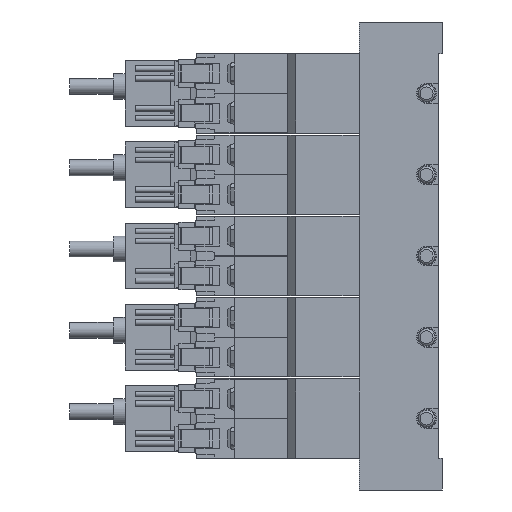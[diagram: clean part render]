
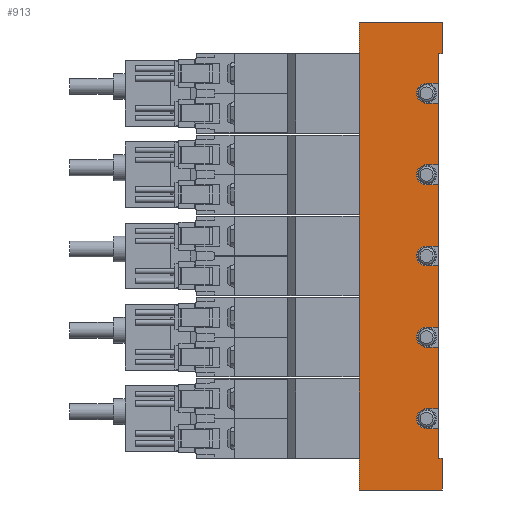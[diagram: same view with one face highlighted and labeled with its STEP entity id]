
A CAD part, left-side view. The second image highlights one B-rep face of the part: STEP entity #913.
In plain terms, the highlighted planar face has unit normal (-1, 0, 0) as drawn and (1, 0, 0) by its records, which use the part's own axes.
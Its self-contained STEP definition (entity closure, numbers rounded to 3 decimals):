
#913=ADVANCED_FACE('',(#1946),#1947,.F.);
#1946=FACE_OUTER_BOUND('',#3057,.T.);
#1947=PLANE('',#3058);
#3057=EDGE_LOOP('',(#6655,#6656,#6657,#6658,#6659,#6660,#6661,#6662,#6663,#6664,#6665,#6666,#6667,#6668,#6669,#6670,#6671,#6672,#6673,#6674,#6675,#6676,#6677,#6678,#6679,#6680,#6681,#6682));
#3058=AXIS2_PLACEMENT_3D('',#6683,#6684,#6685);
#6655=ORIENTED_EDGE('',*,*,#8037,.T.);
#6656=ORIENTED_EDGE('',*,*,#8038,.T.);
#6657=ORIENTED_EDGE('',*,*,#8039,.F.);
#6658=ORIENTED_EDGE('',*,*,#7892,.F.);
#6659=ORIENTED_EDGE('',*,*,#7906,.T.);
#6660=ORIENTED_EDGE('',*,*,#7966,.T.);
#6661=ORIENTED_EDGE('',*,*,#8022,.T.);
#6662=ORIENTED_EDGE('',*,*,#7952,.F.);
#6663=ORIENTED_EDGE('',*,*,#7882,.F.);
#6664=ORIENTED_EDGE('',*,*,#8006,.F.);
#6665=ORIENTED_EDGE('',*,*,#8020,.T.);
#6666=ORIENTED_EDGE('',*,*,#7947,.F.);
#6667=ORIENTED_EDGE('',*,*,#7930,.F.);
#6668=ORIENTED_EDGE('',*,*,#7977,.F.);
#6669=ORIENTED_EDGE('',*,*,#8019,.T.);
#6670=ORIENTED_EDGE('',*,*,#7989,.F.);
#6671=ORIENTED_EDGE('',*,*,#8028,.F.);
#6672=ORIENTED_EDGE('',*,*,#7936,.F.);
#6673=ORIENTED_EDGE('',*,*,#8018,.T.);
#6674=ORIENTED_EDGE('',*,*,#7971,.F.);
#6675=ORIENTED_EDGE('',*,*,#8004,.F.);
#6676=ORIENTED_EDGE('',*,*,#7923,.F.);
#6677=ORIENTED_EDGE('',*,*,#8017,.T.);
#6678=ORIENTED_EDGE('',*,*,#7984,.F.);
#6679=ORIENTED_EDGE('',*,*,#7982,.F.);
#6680=ORIENTED_EDGE('',*,*,#8036,.F.);
#6681=ORIENTED_EDGE('',*,*,#8015,.T.);
#6682=ORIENTED_EDGE('',*,*,#8040,.T.);
#6683=CARTESIAN_POINT('',(17.5,1.0,59.0));
#6684=DIRECTION('',(-1.0,0.0,0.0));
#6685=DIRECTION('',(0.0,0.0,1.0));
#7882=EDGE_CURVE('',#9689,#9691,#9692,.T.);
#7892=EDGE_CURVE('',#9709,#9711,#9712,.T.);
#7906=EDGE_CURVE('',#9709,#9738,#9739,.T.);
#7923=EDGE_CURVE('',#9769,#9770,#9771,.T.);
#7930=EDGE_CURVE('',#9782,#9784,#9785,.T.);
#7936=EDGE_CURVE('',#9793,#9794,#9795,.T.);
#7947=EDGE_CURVE('',#9784,#9813,#9814,.T.);
#7952=EDGE_CURVE('',#9691,#9822,#9823,.T.);
#7966=EDGE_CURVE('',#9738,#9845,#9848,.T.);
#7971=EDGE_CURVE('',#9856,#9857,#9858,.T.);
#7977=EDGE_CURVE('',#9867,#9782,#9868,.T.);
#7982=EDGE_CURVE('',#9875,#9877,#9878,.T.);
#7984=EDGE_CURVE('',#9877,#9880,#9881,.T.);
#7989=EDGE_CURVE('',#9886,#9887,#9888,.T.);
#8004=EDGE_CURVE('',#9770,#9856,#9911,.T.);
#8006=EDGE_CURVE('',#9914,#9689,#9915,.T.);
#8015=EDGE_CURVE('',#9930,#9927,#9931,.T.);
#8017=EDGE_CURVE('',#9769,#9880,#9933,.T.);
#8018=EDGE_CURVE('',#9793,#9857,#9934,.T.);
#8019=EDGE_CURVE('',#9867,#9887,#9935,.T.);
#8020=EDGE_CURVE('',#9914,#9813,#9936,.T.);
#8022=EDGE_CURVE('',#9845,#9822,#9938,.T.);
#8028=EDGE_CURVE('',#9794,#9886,#9947,.T.);
#8036=EDGE_CURVE('',#9930,#9875,#9959,.T.);
#8037=EDGE_CURVE('',#9960,#9961,#9962,.T.);
#8038=EDGE_CURVE('',#9961,#9963,#9964,.T.);
#8039=EDGE_CURVE('',#9711,#9963,#9965,.T.);
#8040=EDGE_CURVE('',#9927,#9960,#9966,.T.);
#9689=VERTEX_POINT('',#12661);
#9691=VERTEX_POINT('',#12664);
#9692=CIRCLE('',#12665,2.5);
#9709=VERTEX_POINT('',#12686);
#9711=VERTEX_POINT('',#12689);
#9712=LINE('',#12690,#12691);
#9738=VERTEX_POINT('',#12894);
#9739=LINE('',#12895,#12896);
#9769=VERTEX_POINT('',#12931);
#9770=VERTEX_POINT('',#12932);
#9771=LINE('',#12933,#12934);
#9782=VERTEX_POINT('',#12949);
#9784=VERTEX_POINT('',#12952);
#9785=CIRCLE('',#12953,2.5);
#9793=VERTEX_POINT('',#12964);
#9794=VERTEX_POINT('',#12965);
#9795=LINE('',#12966,#12967);
#9813=VERTEX_POINT('',#12990);
#9814=LINE('',#12991,#12992);
#9822=VERTEX_POINT('',#13002);
#9823=LINE('',#13003,#13004);
#9845=VERTEX_POINT('',#13029);
#9848=LINE('',#13033,#13034);
#9856=VERTEX_POINT('',#13045);
#9857=VERTEX_POINT('',#13046);
#9858=LINE('',#13047,#13048);
#9867=VERTEX_POINT('',#13061);
#9868=LINE('',#13062,#13063);
#9875=VERTEX_POINT('',#13072);
#9877=VERTEX_POINT('',#13075);
#9878=CIRCLE('',#13076,2.5);
#9880=VERTEX_POINT('',#13079);
#9881=LINE('',#13080,#13081);
#9886=VERTEX_POINT('',#13089);
#9887=VERTEX_POINT('',#13090);
#9888=LINE('',#13091,#13092);
#9911=CIRCLE('',#13120,2.5);
#9914=VERTEX_POINT('',#13123);
#9915=LINE('',#13124,#13125);
#9927=VERTEX_POINT('',#13141);
#9930=VERTEX_POINT('',#13145);
#9931=LINE('',#13146,#13147);
#9933=LINE('',#13150,#13151);
#9934=LINE('',#13152,#13153);
#9935=LINE('',#13154,#13155);
#9936=LINE('',#13156,#13157);
#9938=LINE('',#13160,#13161);
#9947=CIRCLE('',#13171,2.5);
#9959=LINE('',#13184,#13185);
#9960=VERTEX_POINT('',#13186);
#9961=VERTEX_POINT('',#13187);
#9962=LINE('',#13188,#13189);
#9963=VERTEX_POINT('',#13190);
#9964=LINE('',#13191,#13192);
#9965=LINE('',#13193,#13194);
#9966=LINE('',#13195,#13196);
#12661=CARTESIAN_POINT('',(17.5,4.0,38.5));
#12664=CARTESIAN_POINT('',(17.5,4.0,43.5));
#12665=AXIS2_PLACEMENT_3D('',#14462,#14463,#14464);
#12686=CARTESIAN_POINT('',(17.5,0.0,59.0));
#12689=CARTESIAN_POINT('',(17.5,21.0,59.0));
#12690=CARTESIAN_POINT('',(17.5,1.0,59.0));
#12691=VECTOR('',#14482,1.0);
#12894=CARTESIAN_POINT('',(17.5,0.0,51.0));
#12895=CARTESIAN_POINT('',(17.5,0.0,59.0));
#12896=VECTOR('',#14508,1.0);
#12931=CARTESIAN_POINT('',(17.5,1.0,-23.0));
#12932=CARTESIAN_POINT('',(17.5,4.0,-23.0));
#12933=CARTESIAN_POINT('',(17.5,1.0,-23.0));
#12934=VECTOR('',#14544,1.0);
#12949=CARTESIAN_POINT('',(17.5,4.0,18.0));
#12952=CARTESIAN_POINT('',(17.5,4.0,23.0));
#12953=AXIS2_PLACEMENT_3D('',#14553,#14554,#14555);
#12964=CARTESIAN_POINT('',(17.5,1.0,-2.5));
#12965=CARTESIAN_POINT('',(17.5,4.0,-2.5));
#12966=CARTESIAN_POINT('',(17.5,1.0,-2.5));
#12967=VECTOR('',#14565,1.0);
#12990=CARTESIAN_POINT('',(17.5,1.0,23.0));
#12991=CARTESIAN_POINT('',(17.5,1.0,23.0));
#12992=VECTOR('',#14586,1.0);
#13002=CARTESIAN_POINT('',(17.5,1.0,43.5));
#13003=CARTESIAN_POINT('',(17.5,1.0,43.5));
#13004=VECTOR('',#14595,1.0);
#13029=CARTESIAN_POINT('',(17.5,1.0,51.0));
#13033=CARTESIAN_POINT('',(17.5,0.0,51.0));
#13034=VECTOR('',#14624,1.0);
#13045=CARTESIAN_POINT('',(17.5,4.0,-18.0));
#13046=CARTESIAN_POINT('',(17.5,1.0,-18.0));
#13047=CARTESIAN_POINT('',(17.5,1.0,-18.0));
#13048=VECTOR('',#14631,1.0);
#13061=CARTESIAN_POINT('',(17.5,1.0,18.0));
#13062=CARTESIAN_POINT('',(17.5,1.0,18.0));
#13063=VECTOR('',#14639,1.0);
#13072=CARTESIAN_POINT('',(17.5,4.0,-43.5));
#13075=CARTESIAN_POINT('',(17.5,4.0,-38.5));
#13076=AXIS2_PLACEMENT_3D('',#14646,#14647,#14648);
#13079=CARTESIAN_POINT('',(17.5,1.0,-38.5));
#13080=CARTESIAN_POINT('',(17.5,1.0,-38.5));
#13081=VECTOR('',#14650,1.0);
#13089=CARTESIAN_POINT('',(17.5,4.0,2.5));
#13090=CARTESIAN_POINT('',(17.5,1.0,2.5));
#13091=CARTESIAN_POINT('',(17.5,1.0,2.5));
#13092=VECTOR('',#14657,1.0);
#13120=AXIS2_PLACEMENT_3D('',#14687,#14688,#14689);
#13123=CARTESIAN_POINT('',(17.5,1.0,38.5));
#13124=CARTESIAN_POINT('',(17.5,1.0,38.5));
#13125=VECTOR('',#14693,1.0);
#13141=CARTESIAN_POINT('',(17.5,1.0,-51.0));
#13145=CARTESIAN_POINT('',(17.5,1.0,-43.5));
#13146=CARTESIAN_POINT('',(17.5,1.0,59.0));
#13147=VECTOR('',#14708,1.0);
#13150=CARTESIAN_POINT('',(17.5,1.0,59.0));
#13151=VECTOR('',#14710,1.0);
#13152=CARTESIAN_POINT('',(17.5,1.0,59.0));
#13153=VECTOR('',#14711,1.0);
#13154=CARTESIAN_POINT('',(17.5,1.0,59.0));
#13155=VECTOR('',#14712,1.0);
#13156=CARTESIAN_POINT('',(17.5,1.0,59.0));
#13157=VECTOR('',#14713,1.0);
#13160=CARTESIAN_POINT('',(17.5,1.0,59.0));
#13161=VECTOR('',#14715,1.0);
#13171=AXIS2_PLACEMENT_3D('',#14729,#14730,#14731);
#13184=CARTESIAN_POINT('',(17.5,1.0,-43.5));
#13185=VECTOR('',#14748,1.0);
#13186=CARTESIAN_POINT('',(17.5,0.0,-51.0));
#13187=CARTESIAN_POINT('',(17.5,0.0,-59.0));
#13188=CARTESIAN_POINT('',(17.5,0.0,-51.0));
#13189=VECTOR('',#14749,1.0);
#13190=CARTESIAN_POINT('',(17.5,21.0,-59.0));
#13191=CARTESIAN_POINT('',(17.5,1.0,-59.0));
#13192=VECTOR('',#14750,1.0);
#13193=CARTESIAN_POINT('',(17.5,21.0,59.0));
#13194=VECTOR('',#14751,1.0);
#13195=CARTESIAN_POINT('',(17.5,4.0,-51.0));
#13196=VECTOR('',#14752,1.0);
#14462=CARTESIAN_POINT('',(17.5,4.0,41.0));
#14463=DIRECTION('',(1.0,0.0,-0.0));
#14464=DIRECTION('',(0.0,0.0,1.0));
#14482=DIRECTION('',(0.0,1.0,0.0));
#14508=DIRECTION('',(0.0,0.0,-1.0));
#14544=DIRECTION('',(0.0,1.0,0.0));
#14553=CARTESIAN_POINT('',(17.5,4.0,20.5));
#14554=DIRECTION('',(1.0,0.0,-0.0));
#14555=DIRECTION('',(0.0,0.0,1.0));
#14565=DIRECTION('',(0.0,1.0,0.0));
#14586=DIRECTION('',(0.0,-1.0,0.0));
#14595=DIRECTION('',(0.0,-1.0,0.0));
#14624=DIRECTION('',(0.0,1.0,0.0));
#14631=DIRECTION('',(0.0,-1.0,0.0));
#14639=DIRECTION('',(0.0,1.0,0.0));
#14646=CARTESIAN_POINT('',(17.5,4.0,-41.0));
#14647=DIRECTION('',(1.0,0.0,-0.0));
#14648=DIRECTION('',(0.0,0.0,1.0));
#14650=DIRECTION('',(0.0,-1.0,0.0));
#14657=DIRECTION('',(0.0,-1.0,0.0));
#14687=CARTESIAN_POINT('',(17.5,4.0,-20.5));
#14688=DIRECTION('',(1.0,0.0,-0.0));
#14689=DIRECTION('',(0.0,0.0,1.0));
#14693=DIRECTION('',(0.0,1.0,0.0));
#14708=DIRECTION('',(0.0,0.0,-1.0));
#14710=DIRECTION('',(0.0,0.0,-1.0));
#14711=DIRECTION('',(0.0,0.0,-1.0));
#14712=DIRECTION('',(0.0,0.0,-1.0));
#14713=DIRECTION('',(0.0,0.0,-1.0));
#14715=DIRECTION('',(0.0,0.0,-1.0));
#14729=CARTESIAN_POINT('',(17.5,4.0,0.0));
#14730=DIRECTION('',(1.0,0.0,-0.0));
#14731=DIRECTION('',(0.0,0.0,1.0));
#14748=DIRECTION('',(0.0,1.0,0.0));
#14749=DIRECTION('',(0.0,0.0,-1.0));
#14750=DIRECTION('',(0.0,1.0,0.0));
#14751=DIRECTION('',(0.0,0.0,-1.0));
#14752=DIRECTION('',(0.0,-1.0,0.0));
